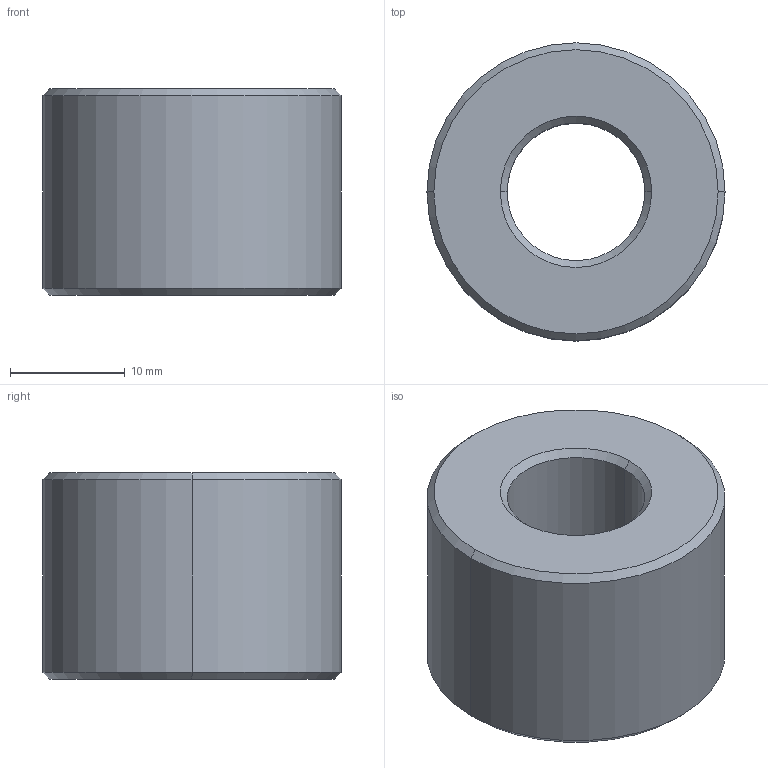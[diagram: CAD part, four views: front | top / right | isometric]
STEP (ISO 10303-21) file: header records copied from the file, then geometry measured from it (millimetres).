
FILE_DESCRIPTION (( 'STEP AP203' ), '1' );
FILE_NAME ('L1339.R12-03.step', '2024-10-24T14:08:16', ( '' ), ( '' ), 'SwSTEP 2.0', 'SolidWorks 2019', '' );
FILE_SCHEMA (( 'CONFIG_CONTROL_DESIGN' ));
Length unit declared in the file: millimetre
Products named in the file (1): L1339.R12-03
Bounding box: 26 x 26 x 18 mm (x, y, z)
Volume: 7478 mm3; surface area: 2900.6 mm2
Topology: 1 solids, 1 shells, 14 faces, 28 edges, 16 vertices
Faces by surface type: cone 8, cylinder 4, plane 2
Entity records: 445 total; most frequent: DIRECTION 74, CARTESIAN_POINT 59, ORIENTED_EDGE 56, AXIS2_PLACEMENT_3D 31, EDGE_CURVE 28, VERTEX_POINT 16, CIRCLE 16, EDGE_LOOP 16
